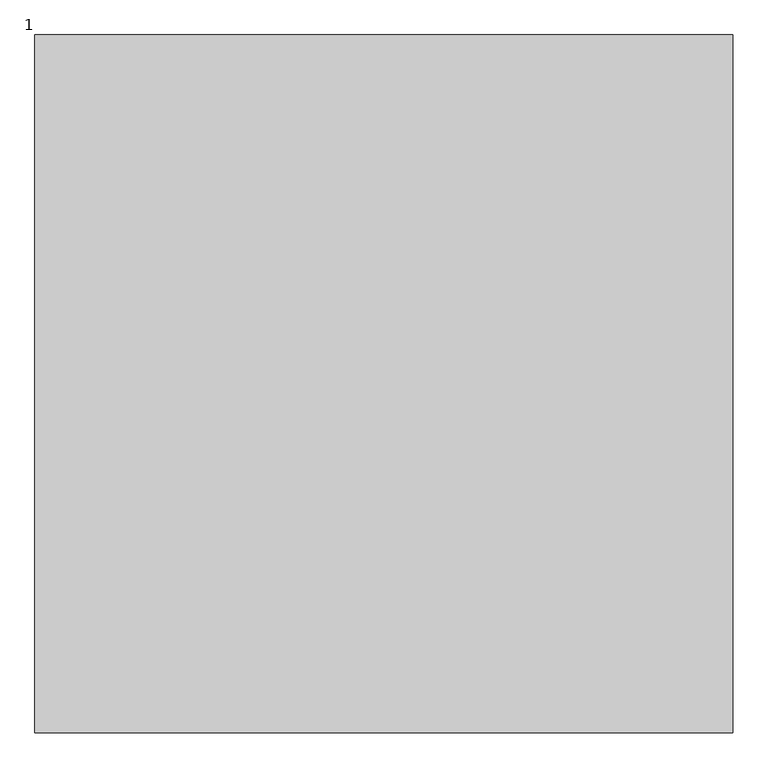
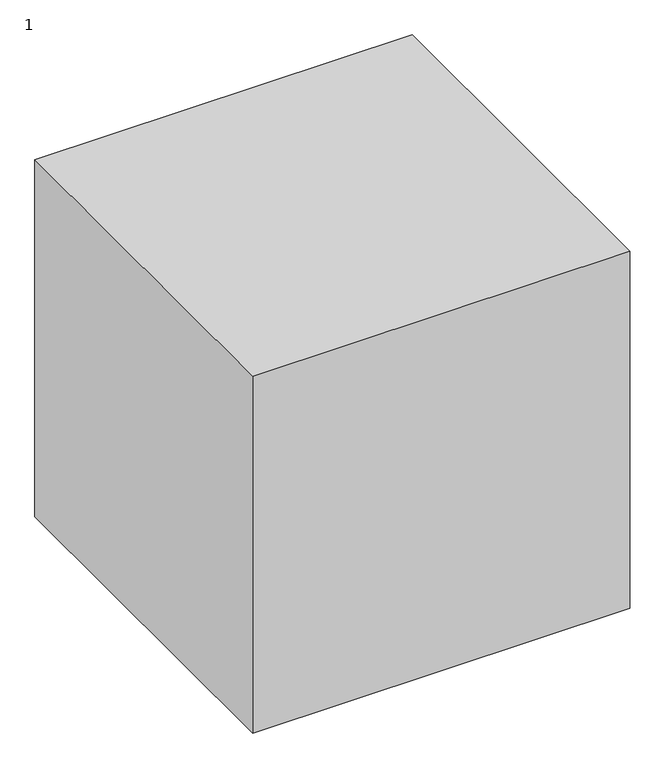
"""IFC4 building model written with IfcOpenShell, lengths in millimetres: proxy geometry, 122211121 : 1."""

from ifc_helpers import new_model, si_unit, origin, origin_with_axes, place, context, project, spatial, polyline, outline, extrude, source, transform, mapped, element, save


def proxy_1_0407d41d(model_context):
    return source(origin(), model_context, "Body", "SweptSolid", [
        extrude(outline(polyline([(3692.0243292, 3335.2294472), (3692.0243292, 2335.2294472), (2692.0243292, 2335.2294472), (2692.0243292, 3335.2294472), (3692.0243292, 3335.2294472)])), origin_with_axes(), (0.0, 0.0, 1.0), 1000.0),
    ])


if __name__ == "__main__":
    model = new_model("IFC4")
    model_context = context("Model", 3, world=origin())
    ifc_project = project(units=[si_unit("LENGTHUNIT", "METRE", prefix="MILLI")], contexts=[model_context])
    site = spatial("IfcSite", under=ifc_project)
    building = spatial("IfcBuilding", under=site)
    placement = place(None, origin())
    proxy_1_shape = proxy_1_0407d41d(model_context)
    element("IfcBuildingElementProxy", 1, Name="122211121 : 1", ObjectType="122211121 : 1", at=placement, inside=building, context=model_context, shape_type="MappedRepresentation", body=[
        mapped(proxy_1_shape, transform((0.0, 0.0, 0.0), x_axis=(1.0, 0.0, 0.0), y_axis=(0.0, 1.0, 0.0), z_axis=(0.0, 0.0, 1.0))),
    ])
    save(model, "model.ifc")
